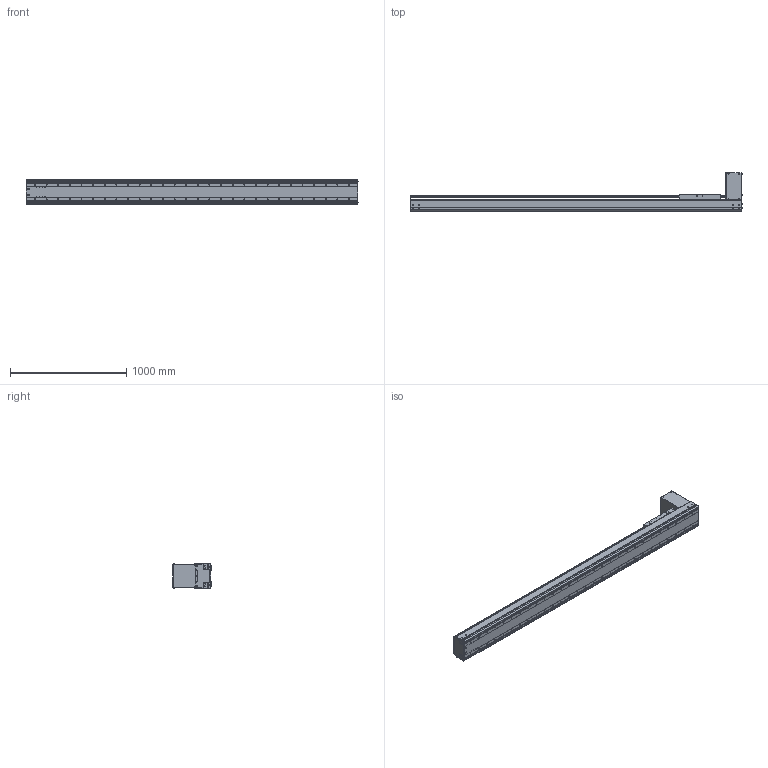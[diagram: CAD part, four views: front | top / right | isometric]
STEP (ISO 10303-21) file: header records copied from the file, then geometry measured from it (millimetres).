
FILE_DESCRIPTION((''),'2;1');
FILE_NAME('BE60J-BT-L19N-N5_IGS_PRT','2017-06-18T',(' '),(''),'PRO/ENGINEER BY PARAMETRIC TECHNOLOGY CORPORATION, 2015030','PRO/ENGINEER BY PARAMETRIC TECHNOLOGY CORPORATION, 2015030','');
FILE_SCHEMA(('CONFIG_CONTROL_DESIGN'));
Products named in the file (1): BE60J-BT-L19N-N5_IGS_PRT
Bounding box: 2854.4 x 327.5 x 214 mm (x, y, z)
Volume: 22113770.8 mm3; surface area: 6136007.5 mm2
Topology: 2 solids, 349 shells, 2498 faces, 7106 edges, 4772 vertices
Faces by surface type: cylinder 1252, plane 874, cone 276, torus 48, sphere 48
Entity records: 83717 total; most frequent: CARTESIAN_POINT 19402, DIRECTION 13413, ORIENTED_EDGE 12572, EDGE_CURVE 6880, AXIS2_PLACEMENT_3D 5123, VERTEX_POINT 4742, VECTOR 3167, LINE 3167
